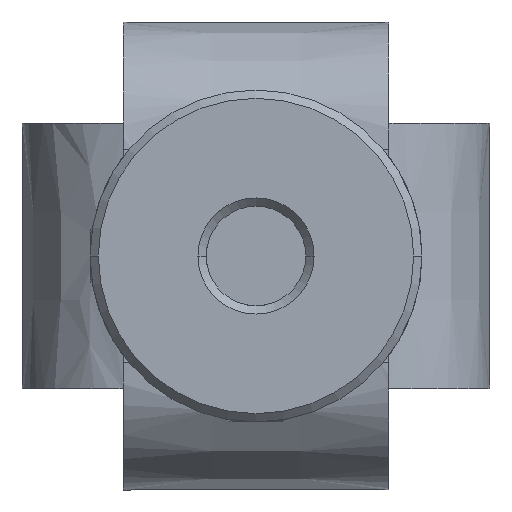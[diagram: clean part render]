
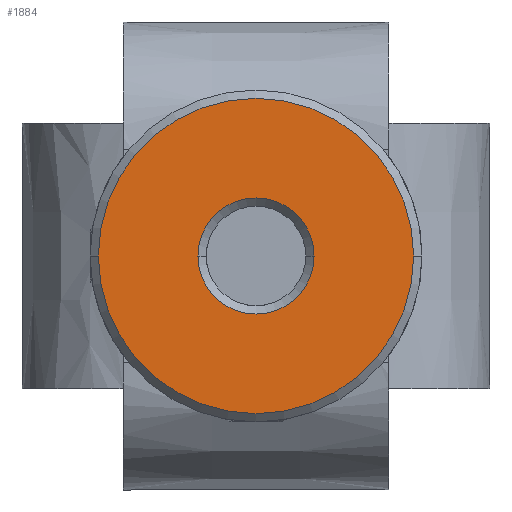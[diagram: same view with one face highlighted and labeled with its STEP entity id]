
A CAD part, front view. The second image highlights one B-rep face of the part: STEP entity #1884.
In plain terms, the highlighted planar face has unit normal (0, -1, 0).
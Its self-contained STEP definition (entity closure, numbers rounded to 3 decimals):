
#154 = CIRCLE ( 'NONE', #2087, 9.5 ) ;
#746 = CARTESIAN_POINT ( 'NONE',  ( 0., -35.24, 0. ) ) ;
#891 = ORIENTED_EDGE ( 'NONE', *, *, #2409, .T. ) ;
#930 = EDGE_CURVE ( 'NONE', #3316, #1812, #2488, .T. ) ;
#1319 = CARTESIAN_POINT ( 'NONE',  ( 3.5, -35.24, 0. ) ) ;
#1381 = DIRECTION ( 'NONE',  ( -1., 0., 0. ) ) ;
#1614 = AXIS2_PLACEMENT_3D ( 'NONE', #3748, #2547, #7485 ) ;
#1812 = VERTEX_POINT ( 'NONE', #1319 ) ;
#1884 = ADVANCED_FACE ( 'NONE', ( #7547, #6191 ), #3234, .T. ) ;
#1979 = CARTESIAN_POINT ( 'NONE',  ( 0., -35.24, 0. ) ) ;
#2087 = AXIS2_PLACEMENT_3D ( 'NONE', #4635, #3403, #7816 ) ;
#2348 = EDGE_LOOP ( 'NONE', ( #7998, #891 ) ) ;
#2409 = EDGE_CURVE ( 'NONE', #1812, #3316, #4851, .T. ) ;
#2488 = CIRCLE ( 'NONE', #1614, 3.5 ) ;
#2547 = DIRECTION ( 'NONE',  ( 0., 1., 0. ) ) ;
#2626 = VERTEX_POINT ( 'NONE', #3325 ) ;
#2734 = DIRECTION ( 'NONE',  ( 0., -1., 0. ) ) ;
#3234 = PLANE ( 'NONE',  #7405 ) ;
#3316 = VERTEX_POINT ( 'NONE', #6023 ) ;
#3325 = CARTESIAN_POINT ( 'NONE',  ( -9.5, -35.24, 0. ) ) ;
#3379 = CARTESIAN_POINT ( 'NONE',  ( 0., -35.24, 0. ) ) ;
#3403 = DIRECTION ( 'NONE',  ( 0., -1., 0. ) ) ;
#3748 = CARTESIAN_POINT ( 'NONE',  ( 0., -35.24, 0. ) ) ;
#4148 = EDGE_CURVE ( 'NONE', #8062, #2626, #154, .T. ) ;
#4635 = CARTESIAN_POINT ( 'NONE',  ( 0., -35.24, 0. ) ) ;
#4851 = CIRCLE ( 'NONE', #6930, 3.5 ) ;
#4941 = AXIS2_PLACEMENT_3D ( 'NONE', #3379, #2734, #7033 ) ;
#5423 = EDGE_CURVE ( 'NONE', #2626, #8062, #5781, .T. ) ;
#5781 = CIRCLE ( 'NONE', #4941, 9.5 ) ;
#6023 = CARTESIAN_POINT ( 'NONE',  ( -3.5, -35.24, 0. ) ) ;
#6191 = FACE_OUTER_BOUND ( 'NONE', #6610, .T. ) ;
#6215 = DIRECTION ( 'NONE',  ( -1., 0., 0. ) ) ;
#6610 = EDGE_LOOP ( 'NONE', ( #7242, #6938 ) ) ;
#6930 = AXIS2_PLACEMENT_3D ( 'NONE', #746, #6944, #6215 ) ;
#6938 = ORIENTED_EDGE ( 'NONE', *, *, #5423, .T. ) ;
#6944 = DIRECTION ( 'NONE',  ( 0., 1., 0. ) ) ;
#7028 = DIRECTION ( 'NONE',  ( 0., -1., 0. ) ) ;
#7033 = DIRECTION ( 'NONE',  ( -1., 0., 0. ) ) ;
#7048 = CARTESIAN_POINT ( 'NONE',  ( 9.5, -35.24, 0. ) ) ;
#7242 = ORIENTED_EDGE ( 'NONE', *, *, #4148, .T. ) ;
#7405 = AXIS2_PLACEMENT_3D ( 'NONE', #1979, #7028, #1381 ) ;
#7485 = DIRECTION ( 'NONE',  ( -1., 0., 0. ) ) ;
#7547 = FACE_BOUND ( 'NONE', #2348, .T. ) ;
#7816 = DIRECTION ( 'NONE',  ( -1., 0., 0. ) ) ;
#7998 = ORIENTED_EDGE ( 'NONE', *, *, #930, .T. ) ;
#8062 = VERTEX_POINT ( 'NONE', #7048 ) ;
